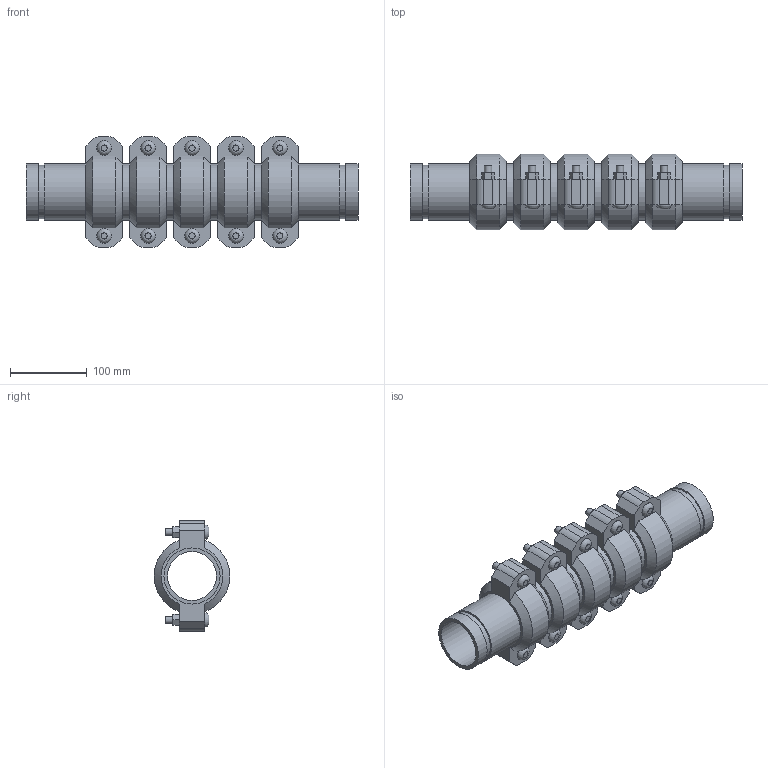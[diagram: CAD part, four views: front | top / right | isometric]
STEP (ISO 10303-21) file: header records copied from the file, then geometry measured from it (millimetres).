
FILE_DESCRIPTION(/* description */ ('VIC EXPANSION JOINT 5 COUPLINGS COMPRESSED STYLE 155 (OGS)','CAx-IF Rec.Pracs.---Representation and Presentation of Product Manufacturing Information (PMI)---4.0---2014-10-13'),/* implementation_level */ '2;1');
FILE_NAME(/* name */ 'C:\Users\kkamble\AppData\Roaming\Autodesk\ApplicationPlugins\Victaulic.Temp\A136\Victaulic_IPS_Expansion Joint_Compressed_5 Couplings_Style 155 (OGS)_2.5 (65).stp',/* time_stamp */ '2021-06-27T00:29:27+02:00',/* author */ ('kkamble'),/* organization */ ('Victaulic'),/* preprocessor_version */ 'ST-DEVELOPER v17.2',/* originating_system */ 'Autodesk Inventor 2019',/* authorisation */ '');
FILE_SCHEMA (('AP242_MANAGED_MODEL_BASED_3D_ENGINEERING_MIM_LF { 1 0 10303 442 1 1 4 }'));
Length unit declared in the file: inch
Products named in the file (4): 155-02.5; Nipple-02.5; Nipple-02.5_1; 075-02.5
Assembly tree (11 placements, depth 2):
  155-02.5
    Nipple-02.5  x2
    Nipple-02.5_1  x4
    075-02.5  x5
Bounding box: 431.8 x 98.22 x 144.27 mm (x, y, z)
Volume: 1472906.4 mm3; surface area: 420140.7 mm2
Topology: 11 solids, 21 shells, 337 faces, 815 edges, 574 vertices
Faces by surface type: plane 206, cylinder 101, cone 20, bspline 10
Full cylindrical faces by diameter (mm): 9.525 x20, 11.43 x10, 63.475 x6, 69.088 x12, 73.025 x23
Entity records: 2707 total; most frequent: CARTESIAN_POINT 481, DIRECTION 447, ORIENTED_EDGE 374, EDGE_CURVE 187, AXIS2_PLACEMENT_3D 178, VERTEX_POINT 134, EDGE_LOOP 101, LINE 91
